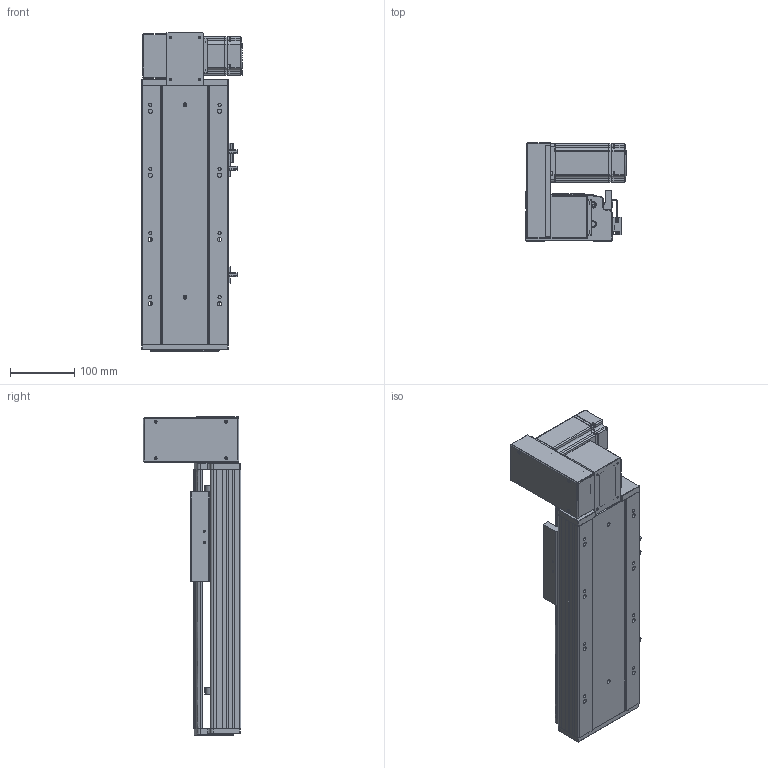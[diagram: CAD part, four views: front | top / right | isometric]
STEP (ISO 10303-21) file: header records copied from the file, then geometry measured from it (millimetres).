
FILE_DESCRIPTION (( 'STEP AP203' ), '1' );
FILE_NAME ('RY140-T-300-UL.SLDASM_150.step', '2021-03-01T07:42:43', ( '盈信电脑' ), ( '东莞市道滘镇水果街19号' ), 'SwSTEP 2.0', 'SolidWorks 2012', '' );
FILE_SCHEMA (( 'CONFIG_CONTROL_DESIGN' ));
Products named in the file (18): 滅袉蝶18-10; RY140-T-300-UL.SLDASM_150; RY140-T翋肮謫裔啣; RY140-T萇儂欶; RY120-T主同步轮轴承压盖; RY120-T蹟翐M4; 侂狟400W侜督萇儂; RY140-T萇儂假蚾啣; RY120-T肮祭湍揤踡輸1; 15; RY140-T翋肮祭謫盓傅釱; RY120外置感应片(140共用）; RY140綴裔啣; RY120-T肮祭湍揤踡輸2; 覜茼ん672; RY140肮祭謫臏賑輸; RY140-T-300-DL倰第奻裔啣_150; RY140-T-300-DL倰第菁釱_150
Assembly tree (23 placements, depth 3):
  RY140-T-300-UL.SLDASM_150
    RY140-T-300-DL倰第菁釱_150
    RY140肮祭謫臏賑輸
    RY140-T-300-DL倰第奻裔啣_150
    RY140綴裔啣
    覜茼ん672  x3
    RY120外置感应片(140共用）
    RY120-T肮祭湍揤踡輸2
    RY120-T肮祭湍揤踡輸1
    RY140-T翋肮祭謫盓傅釱
    RY140-T萇儂假蚾啣
    侂狟400W侜督萇儂
      15
    RY120-T主同步轮轴承压盖
    RY120-T蹟翐M4  x4
    RY140-T萇儂欶
    滅袉蝶18-10  x2
    RY140-T翋肮謫裔啣
Bounding box: 157 x 152.5 x 496 mm (x, y, z)
Volume: 1963745.9 mm3; surface area: 694287.4 mm2
Topology: 22 solids, 22 shells, 2503 faces, 6817 edges, 4408 vertices
Faces by surface type: plane 1381, cylinder 860, cone 162, bspline 100
Entity records: 79003 total; most frequent: CARTESIAN_POINT 19341, ORIENTED_EDGE 12234, DIRECTION 11581, EDGE_CURVE 6117, VECTOR 4021, LINE 4021, VERTEX_POINT 4007, AXIS2_PLACEMENT_3D 3780
